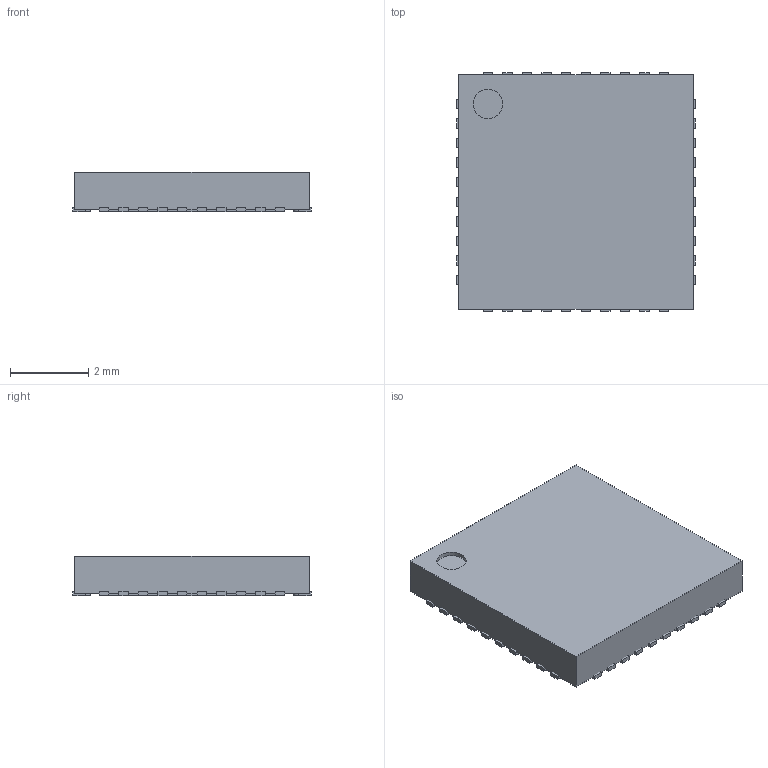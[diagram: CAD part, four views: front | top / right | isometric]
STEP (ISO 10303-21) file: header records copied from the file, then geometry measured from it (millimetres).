
FILE_DESCRIPTION(('FreeCAD Model'),'2;1');
FILE_NAME('/var/www/3D/0T/274403.1.1.stp','2018-01-16T02:53:23',( 'Author'),(''),'Open CASCADE STEP processor 6.8','FreeCAD','Unknown' );
FILE_SCHEMA(('AUTOMOTIVE_DESIGN_CC2 { 1 2 10303 214 -1 1 5 4 }'));
Length unit declared in the file: millimetre
Products named in the file (5): ASSEMBLY; Body; ThermalPin; PinsArrayLR; PinsArrayTB
Assembly tree (4 placements, depth 2):
  ASSEMBLY
    Body
    ThermalPin
    PinsArrayLR
    PinsArrayTB
Bounding box: 6.1 x 6.1 x 1 mm (x, y, z)
Volume: 36.6 mm3; surface area: 150.6 mm2
Topology: 42 solids, 42 shells, 254 faces, 507 edges, 338 vertices
Faces by surface type: plane 213, cylinder 41
Full cylindrical faces by diameter (mm): 0.75 x1
Entity records: 13608 total; most frequent: CARTESIAN_POINT 2358, DIRECTION 2081, LINE 1357, VECTOR 1357, ORIENTED_EDGE 1014, PCURVE 1014, DEFINITIONAL_REPRESENTATION 1014, EDGE_CURVE 507
